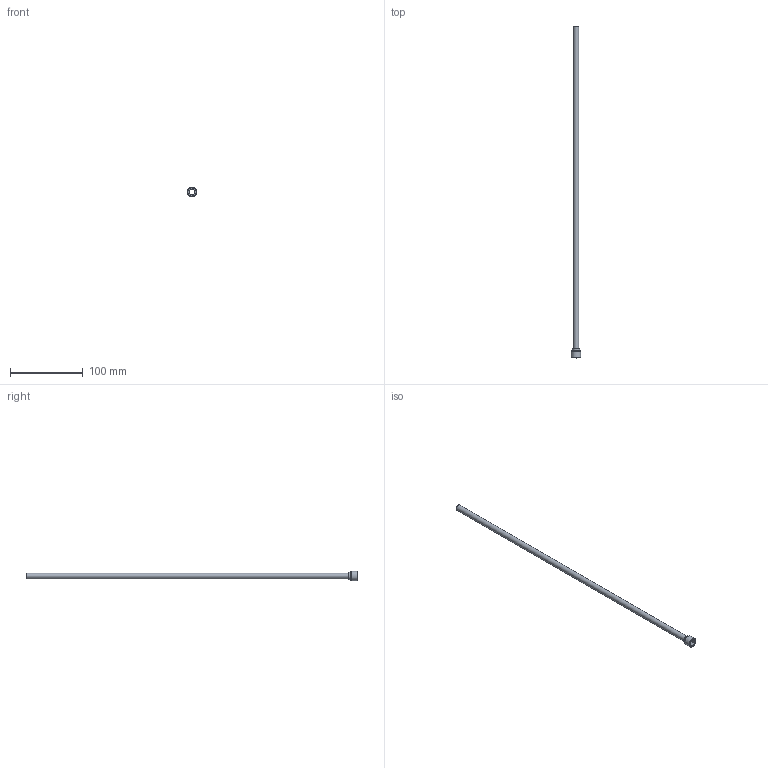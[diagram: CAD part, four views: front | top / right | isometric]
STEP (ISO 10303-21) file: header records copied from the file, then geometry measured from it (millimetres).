
FILE_DESCRIPTION(/* description */ (''),/* implementation_level */ '2;1');
FILE_NAME(/* name */ 'C:/Users/drich/Desktop/PT14-312-18 v1.step',/* time_stamp */ '2019-12-27T15:10:30-06:00',/* author */ (''),/* organization */ (''),/* preprocessor_version */ 'ST-DEVELOPER v18',/* originating_system */ 'Autodesk Translation Framework v8.12.0.6',/* authorisation */ '');
FILE_SCHEMA (('AUTOMOTIVE_DESIGN { 1 0 10303 214 3 1 1 }'));
Length unit declared in the file: inch
Products named in the file (1): PT14-312-18
Bounding box: 13.03 x 457.2 x 13.03 mm (x, y, z)
Volume: 4148 mm3; surface area: 22242.2 mm2
Topology: 1 solids, 1 shells, 19 faces, 48 edges, 34 vertices
Faces by surface type: plane 11, cylinder 4, torus 2, cone 2
Full cylindrical faces by diameter (mm): 7.315 x1, 7.925 x1, 9.906 x1, 13.032 x1
Entity records: 633 total; most frequent: DIRECTION 112, CARTESIAN_POINT 102, ORIENTED_EDGE 96, EDGE_CURVE 48, AXIS2_PLACEMENT_3D 44, VERTEX_POINT 34, CIRCLE 24, EDGE_LOOP 24
